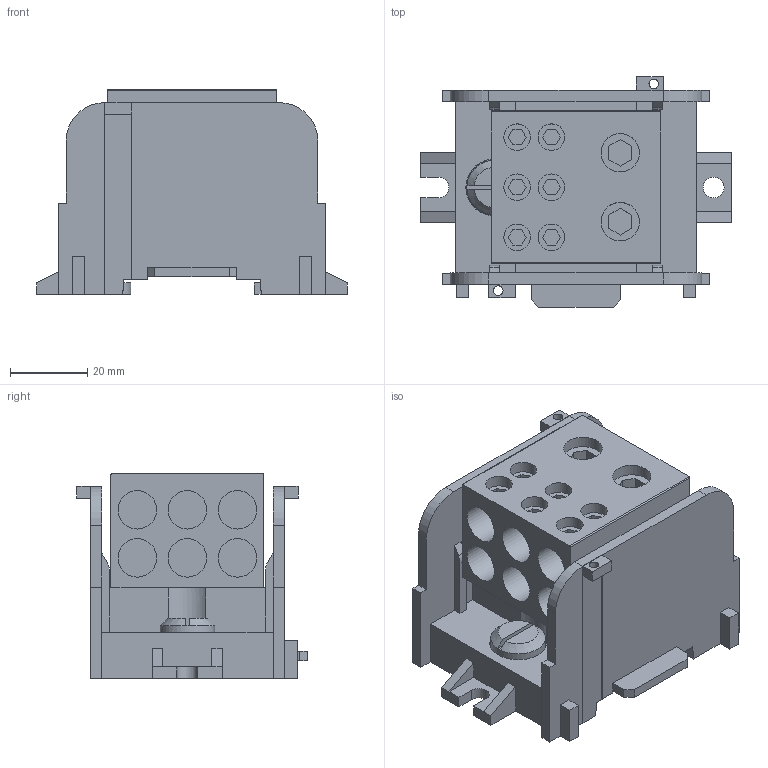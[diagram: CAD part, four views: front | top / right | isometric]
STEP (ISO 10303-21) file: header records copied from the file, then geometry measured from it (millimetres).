
FILE_DESCRIPTION(/* description */ ('Unknown'),/* implementation_level */ '2;1');
FILE_NAME(/* name */ 'UTB-S 2x95_6x35',/* time_stamp */ '2021-05-10T12:38:43+02:00',/* author */ ('Unknown'),/* organization */ ('Unknown'),/* preprocessor_version */ 'ST-DEVELOPER v16.7',/* originating_system */ 'Solid Edge',/* authorisation */ 'Unknown');
FILE_SCHEMA (('AUTOMOTIVE_DESIGN {1 0 10303 214 3 1 1}'));
Length unit declared in the file: millimetre
Products named in the file (1): UTB-S 2x95_6x35
Bounding box: 80.6 x 59.9 x 53.2 mm (x, y, z)
Volume: 103691.6 mm3; surface area: 31932.2 mm2
Topology: 1 solids, 1 shells, 232 faces, 603 edges, 398 vertices
Faces by surface type: plane 197, cylinder 33, cone 2
Full cylindrical faces by diameter (mm): 2.5 x2, 5.4 x1, 6.9 x6, 10 x8, 14.2 x1, 14.7 x1, 16 x2
Entity records: 6856 total; most frequent: CARTESIAN_POINT 1205, ORIENTED_EDGE 1144, DIRECTION 1108, EDGE_CURVE 572, LINE 494, VECTOR 494, VERTEX_POINT 388, AXIS2_PLACEMENT_3D 307
